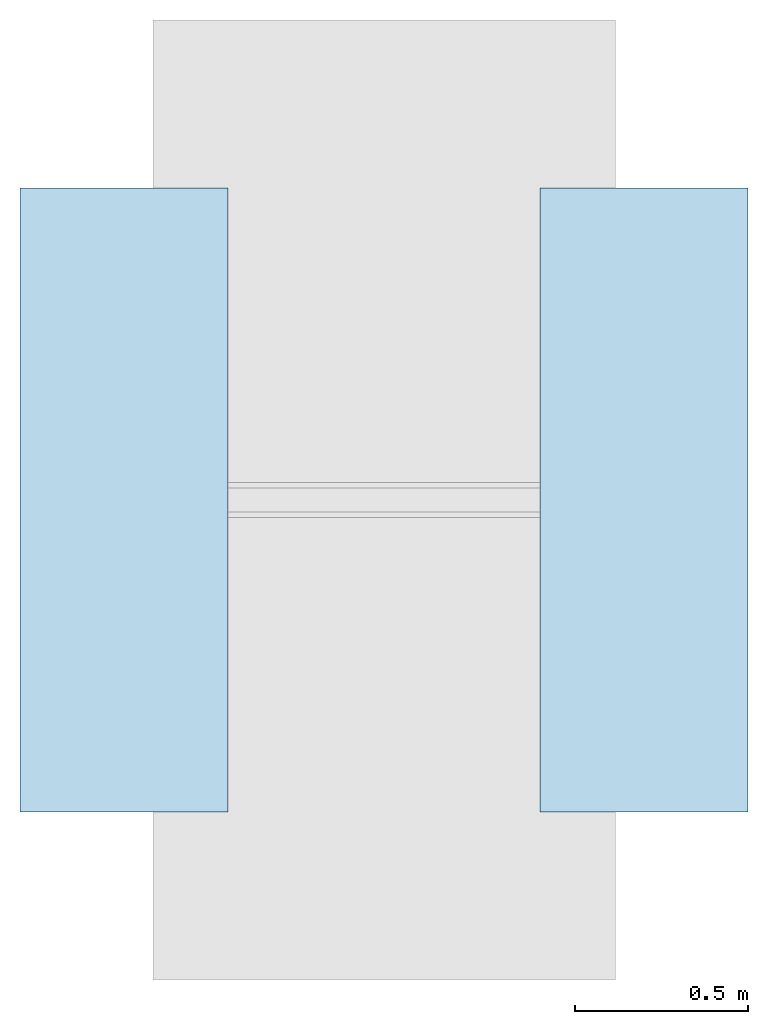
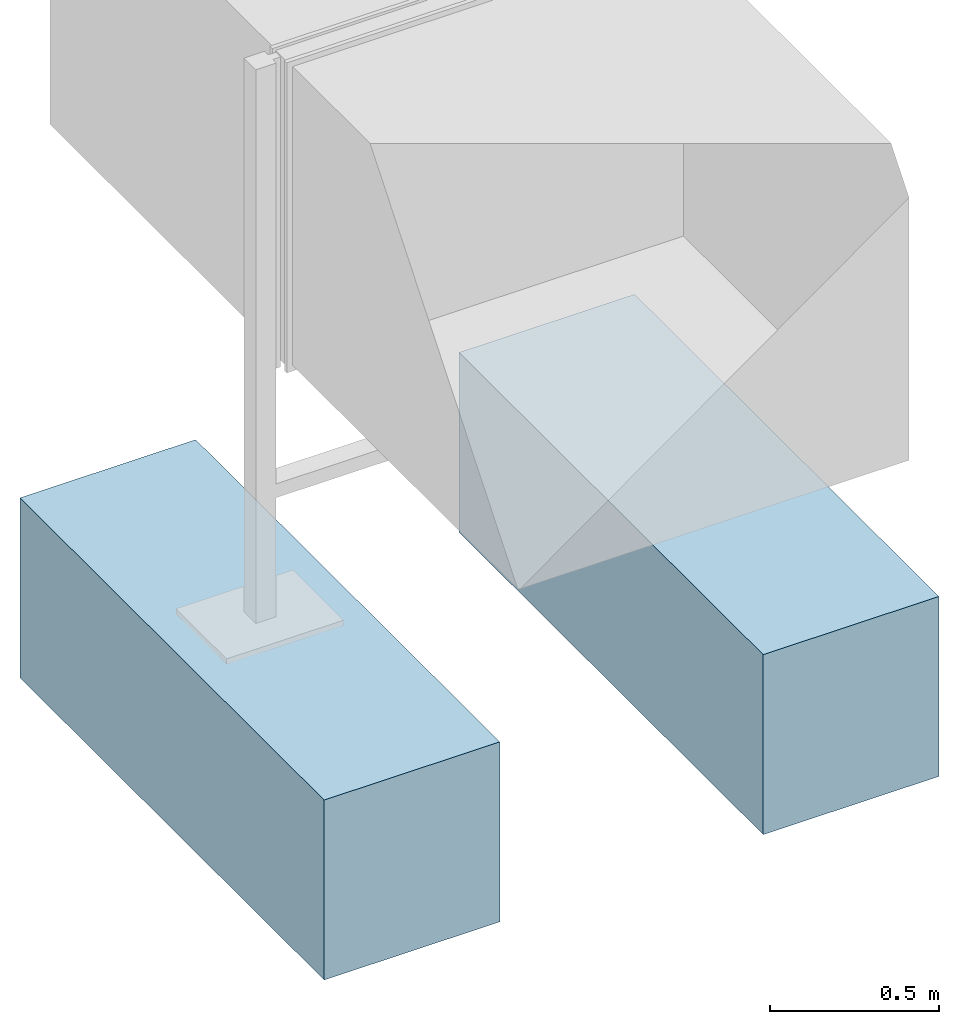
# One storey, incomplete: 2 slabs.
"""IFC4 building model written with IfcOpenShell, lengths in metres."""

from ifc_helpers import new_model, entity, si_unit, converted_unit, direction, frame, frame_2d, origin, origin_2d_with_axis, place, context, subcontext, project, spatial, rectangle, extrude, material, type_object, element, save


model = new_model("IFC4")

# Units and contexts
model_context = context("Model", 3, precision=1e-05, world=origin(), true_north=direction((6.123031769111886e-17, 1.0)))
body_context = subcontext(model_context, "Body", "Model", "MODEL_VIEW")
ifc_project = project(units=[si_unit("LENGTHUNIT", "METRE"), converted_unit("PLANEANGLEUNIT", "DEGREE", entity("IfcPlaneAngleMeasure", 0.017453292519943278), si_unit("PLANEANGLEUNIT", "RADIAN"), dimensions=[0, 0, 0, 0, 0, 0, 0]), si_unit("AREAUNIT", "SQUARE_METRE")], contexts=[model_context])

# Site, building, storey
site_placement = place(None, origin())
site = spatial("IfcSite", under=ifc_project, at=site_placement, Name="Default", CompositionType="ELEMENT")
building_placement = place(site_placement, origin())
building = spatial("IfcBuilding", under=site, at=building_placement, CompositionType="ELEMENT")
storey_placement = place(building_placement, origin())
storey = spatial("IfcBuildingStorey", under=building, at=storey_placement, Name="DB_Bezugshoehe_max_Bahnsteigkante", CompositionType="ELEMENT", Elevation=0.0)

# Slabs
ifc_material = material(Name="DB_Ortbeton", Category="DB_Beton")
slab_type = type_object("IfcSlabType", Name="DB_Vitrine_Fundament:DB_Vitrine_Fundament", PredefinedType="BASESLAB", material=ifc_material)
slab_1_placement = place(storey_placement, origin())
element("IfcSlab", 1, at=slab_1_placement, inside=storey, type_object=slab_type, Name="DB_Vitrine_Fundament:DB_Vitrine_Fundament", ObjectType="DB_Vitrine_Fundament:DB_Vitrine_Fundament", PredefinedType="BASESLAB", context=body_context, shape_type="SweptSolid", body=[
    extrude(rectangle(XDim=1.8, YDim=0.5999999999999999, at=origin_2d_with_axis()), frame((-0.0006257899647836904, 0.0, 0.04999999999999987), z_axis=(0.0, 0.0, 1.0), x_axis=(0.0, 1.0, 0.0)), (0.0, 0.0, 1.0), 0.5999999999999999),
    extrude(rectangle(XDim=0.5999999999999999, YDim=1.7999999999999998, at=origin_2d_with_axis()), frame((-0.0006257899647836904, 0.0, 0.0), z_axis=(0.0, 0.0, 1.0), x_axis=(-1.0, 0.0, 0.0)), (0.0, 0.0, 1.0), 0.04999999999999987),
])
slab_2_placement = place(storey_placement, origin())
element("IfcSlab", 2, at=slab_2_placement, inside=storey, type_object=slab_type, Name="DB_Vitrine_Fundament:DB_Vitrine_Fundament", ObjectType="DB_Vitrine_Fundament:DB_Vitrine_Fundament", PredefinedType="BASESLAB", context=body_context, shape_type="SweptSolid", body=[
    extrude(rectangle(XDim=1.8, YDim=0.5999999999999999, at=frame_2d((0.0, -8.326672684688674e-17), x_axis=(1.0, 0.0))), frame((1.4993742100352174, 0.0, 0.04999999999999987), z_axis=(0.0, 0.0, 1.0), x_axis=(0.0, 1.0, 0.0)), (0.0, 0.0, 1.0), 0.5999999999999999),
    extrude(rectangle(XDim=0.6000000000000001, YDim=1.7999999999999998, at=origin_2d_with_axis()), frame((1.4993742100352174, 0.0, 0.0), z_axis=(0.0, 0.0, 1.0), x_axis=(-1.0, 0.0, 0.0)), (0.0, 0.0, 1.0), 0.04999999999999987),
])

save(model, "model.ifc")
